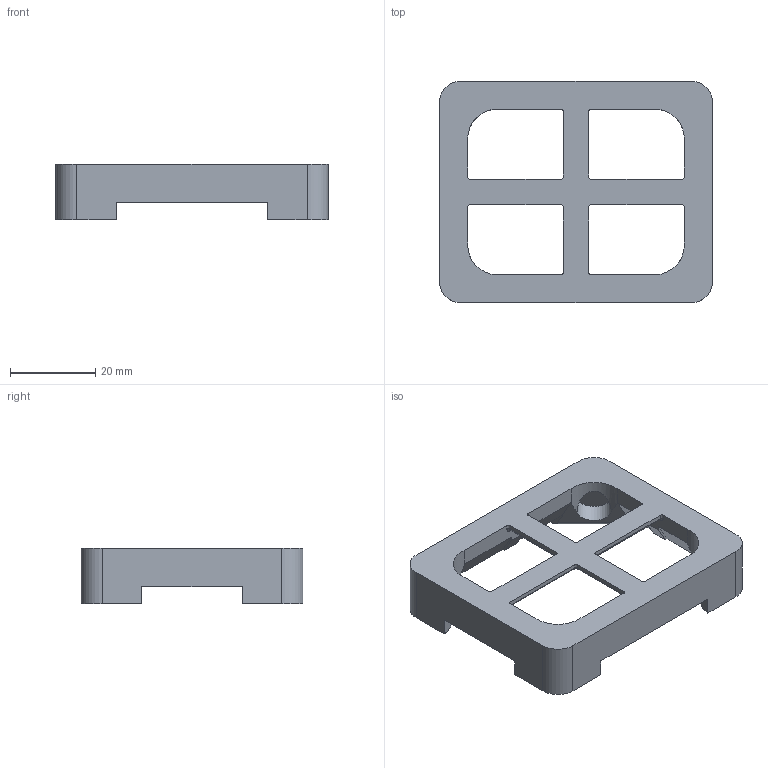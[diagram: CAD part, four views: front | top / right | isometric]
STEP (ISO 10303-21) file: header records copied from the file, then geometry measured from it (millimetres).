
FILE_DESCRIPTION(/* description */ (''),/* implementation_level */ '2;1');
FILE_NAME(/* name */ 'Grundplatte_V11_GAMMA.stp',/* time_stamp */ '2025-05-27T11:53:01+02:00',/* author */ ('dw'),/* organization */ (''),/* preprocessor_version */ 'ST-DEVELOPER v20',/* originating_system */ 'Autodesk Inventor 2025',/* authorisation */ '');
FILE_SCHEMA (('AUTOMOTIVE_DESIGN { 1 0 10303 214 3 1 1 }'));
Length unit declared in the file: millimetre
Products named in the file (2): Baugruppe1; Grundplatte V11 8.0 Loch -0,1 Kugelrastfläche
Assembly tree (1 placements, depth 2):
  Baugruppe1
    Grundplatte V11 8.0 Loch -0,1 Kugelrastfläche
Bounding box: 64 x 52 x 13 mm (x, y, z)
Volume: 13823.8 mm3; surface area: 8165.2 mm2
Topology: 1 solids, 1 shells, 115 faces, 326 edges, 211 vertices
Faces by surface type: plane 63, cylinder 40, torus 12
Full cylindrical faces by diameter (mm): 8 x4
Entity records: 3918 total; most frequent: CARTESIAN_POINT 769, DIRECTION 654, ORIENTED_EDGE 652, EDGE_CURVE 326, LINE 222, VECTOR 222, AXIS2_PLACEMENT_3D 216, VERTEX_POINT 209
